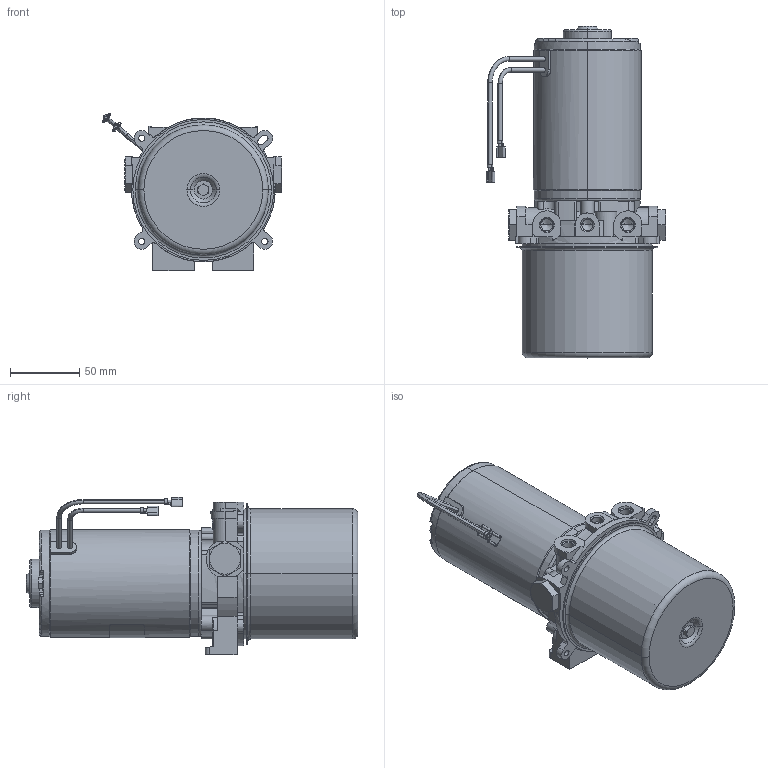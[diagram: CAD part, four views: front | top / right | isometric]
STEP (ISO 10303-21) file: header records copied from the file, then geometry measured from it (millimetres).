
FILE_DESCRIPTION((''),'2;1');
FILE_NAME('108-AE-BE-A_ASM_ASM','2012-11-15T',('da10877'),('OILDYNE'),'PRO/ENGINEER BY PARAMETRIC TECHNOLOGY CORPORATION, 2005380','PRO/ENGINEER BY PARAMETRIC TECHNOLOGY CORPORATION, 2005380','');
FILE_SCHEMA(('CONFIG_CONTROL_DESIGN'));
Length unit declared in the file: inch
Products named in the file (2): _108-AE-BE-A_ASM; 108-AE-BE-A_ASM_ASM
Assembly tree (1 placements, depth 2):
  108-AE-BE-A_ASM_ASM
    _108-AE-BE-A_ASM
Bounding box: 129.37 x 239.32 x 113.32 mm (x, y, z)
Volume: 618620.3 mm3; surface area: 160002.8 mm2
Topology: 7 solids, 8 shells, 784 faces, 2016 edges, 1283 vertices
Faces by surface type: plane 341, cylinder 290, cone 106, torus 46, bspline 1
Entity records: 24443 total; most frequent: CARTESIAN_POINT 5028, DIRECTION 4148, ORIENTED_EDGE 4004, EDGE_CURVE 2004, AXIS2_PLACEMENT_3D 1532, VERTEX_POINT 1283, VECTOR 1084, LINE 1084
